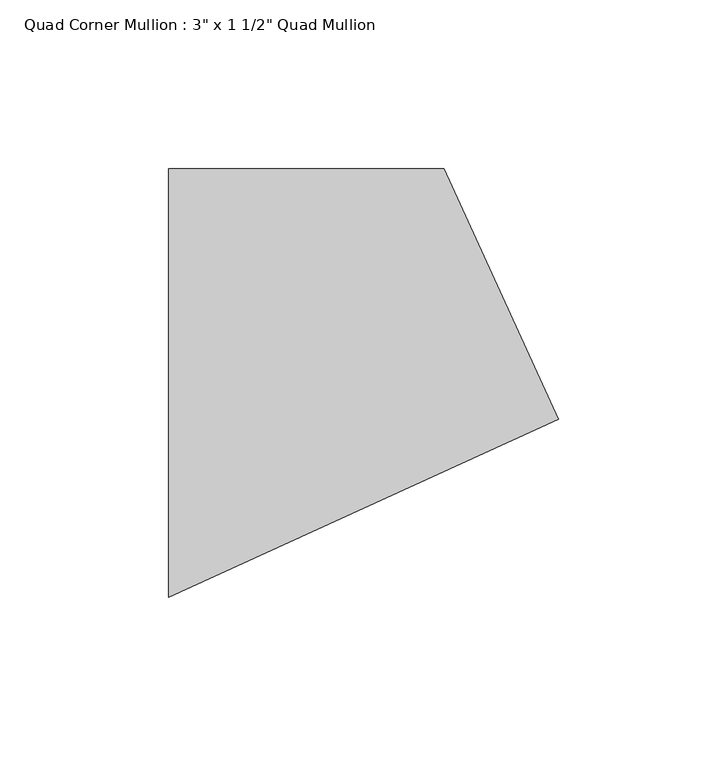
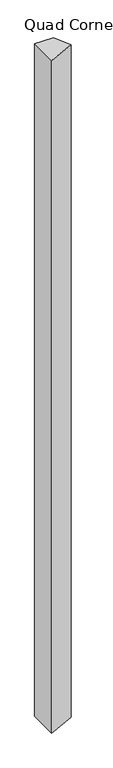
"""IFC4 building model written with IfcOpenShell, lengths in millimetres: member geometry."""

import ifcopenshell
import ifcopenshell.guid

model = None  # the IFC model being written
_history = None  # IfcOwnerHistory: only IFC2X3 demands one
_inside = {}  # id of a spatial element -> (the spatial element, [elements in it])
_under = {}  # id of a project, library or spatial element -> (it, [spatial elements below it])
_declared = {}  # id of a project -> (the project, [libraries it declares])
_typed = {}  # id of a type object -> (the type object, [elements of that type])
_made_of = {}  # id of a material, layer set ... -> (it, [elements and type objects made of it])


def new_model(schema):
    """Start an empty IFC model of exactly this schema.

    Asked for "IFC4X3", IfcOpenShell would pick the latest addendum, in which some entities
    have other attributes; the version numbers below select the first issue.
    IFC2X3 requires an IfcOwnerHistory on every rooted entity: one is made here for all.
    """
    global model, _history
    if schema == "IFC4X3":
        model = ifcopenshell.file(schema_version=(4, 3, 0, 0))
    else:
        model = ifcopenshell.file(schema=schema)
    _inside.clear()
    _under.clear()
    _declared.clear()
    _typed.clear()
    _made_of.clear()
    _history = None
    if model.schema == "IFC2X3":
        org = make("IfcOrganization", Name="unknown")
        user = make(
            "IfcPersonAndOrganization",
            ThePerson=make("IfcPerson", FamilyName="unknown"),
            TheOrganization=org,
        )
        app = make(
            "IfcApplication",
            ApplicationDeveloper=org,
            Version="unknown",
            ApplicationFullName="unknown",
            ApplicationIdentifier="unknown",
        )
        _history = make(
            "IfcOwnerHistory",
            OwningUser=user,
            OwningApplication=app,
            ChangeAction="ADDED",
            CreationDate=0,
        )
    return model


def make(cls, **values):
    """One entity of the class cls with the attributes given. An attribute that is None is left unset."""
    return model.create_entity(
        cls, **{name: value for name, value in values.items() if value is not None}
    )


def rooted(cls, **values):
    """An entity with a GlobalId (a new one), such as an element, a storey or a relation."""
    return make(cls, GlobalId=ifcopenshell.guid.new(), OwnerHistory=_history, **values)


def si_unit(unit_type, name, prefix=None):
    """IfcSIUnit, for example si_unit("LENGTHUNIT", "METRE", prefix="MILLI")."""
    return make("IfcSIUnit", UnitType=unit_type, Prefix=prefix, Name=name)


def assignment(units):
    """IfcUnitAssignment: the units of a project."""
    return None if units is None else make("IfcUnitAssignment", Units=units)


def point(xyz):
    """IfcCartesianPoint."""
    return None if xyz is None else make("IfcCartesianPoint", Coordinates=xyz)


def direction(xyz):
    """IfcDirection."""
    return None if xyz is None else make("IfcDirection", DirectionRatios=xyz)


def frame(location, z_axis=None, x_axis=None):
    """IfcAxis2Placement3D, a coordinate frame: its origin and axes. An axis left out is left unset."""
    return make(
        "IfcAxis2Placement3D",
        Location=point(location),
        Axis=direction(z_axis),
        RefDirection=direction(x_axis),
    )


def origin():
    """The frame at (0, 0, 0) with its axes left unset."""
    return frame((0.0, 0.0, 0.0))


def place(relative_to, where):
    """IfcLocalPlacement: puts the frame where relative to a parent placement (None: the world)."""
    return make(
        "IfcLocalPlacement", PlacementRelTo=relative_to, RelativePlacement=where
    )


def context(
    kind, dimensions, precision=None, world=None, true_north=None, identifier=None
):
    """IfcGeometricRepresentationContext, for example the 3D "Model" context."""
    return make(
        "IfcGeometricRepresentationContext",
        ContextIdentifier=identifier,
        ContextType=kind,
        CoordinateSpaceDimension=dimensions,
        Precision=precision,
        WorldCoordinateSystem=world,
        TrueNorth=true_north,
    )


def project(units=None, contexts=None):
    """IfcProject with its units and contexts."""
    return rooted(
        "IfcProject",
        Name="project",
        RepresentationContexts=contexts,
        UnitsInContext=assignment(units),
    )


def spatial(cls, under=None, at=None, **own):
    """A site, building, storey or space (cls), placed at a placement, below another one or the project."""
    s = rooted(cls, ObjectPlacement=at, **own)
    if under is not None:
        _under.setdefault(under.id(), (under, []))[1].append(s)
    return s


def polyline(points):
    """IfcPolyline through the points."""
    return make("IfcPolyline", Points=[point(p) for p in points])


def outline(outer, holes=None, kind="AREA"):
    """IfcArbitraryClosedProfileDef: a profile drawn as a closed curve; with holes, ...WithVoids."""
    if holes is None:
        return make("IfcArbitraryClosedProfileDef", ProfileType=kind, OuterCurve=outer)
    return make(
        "IfcArbitraryProfileDefWithVoids",
        ProfileType=kind,
        OuterCurve=outer,
        InnerCurves=holes,
    )


def extrude(swept, where, along, depth):
    """IfcExtrudedAreaSolid: the profile swept, set in the frame where, extruded along a direction by depth."""
    return make(
        "IfcExtrudedAreaSolid",
        SweptArea=swept,
        Position=where,
        ExtrudedDirection=direction(along),
        Depth=depth,
    )


def shape(context_of_items, identifier, shape_type, items):
    """IfcShapeRepresentation: the items that make up one representation, for example the "Body"."""
    return make(
        "IfcShapeRepresentation",
        ContextOfItems=context_of_items,
        RepresentationIdentifier=identifier,
        RepresentationType=shape_type,
        Items=items,
    )


def source(mapping_origin, context_of_items, identifier, shape_type, items):
    """IfcRepresentationMap: a shape defined once, which mapped items show again and again."""
    return make(
        "IfcRepresentationMap",
        MappingOrigin=mapping_origin,
        MappedRepresentation=shape(context_of_items, identifier, shape_type, items),
    )


def transform(
    local_origin,
    x_axis=None,
    y_axis=None,
    z_axis=None,
    scale=None,
    scale2=None,
    scale3=None,
    uniform=True,
):
    """IfcCartesianTransformationOperator3D, or its non-uniform kind. x_axis, y_axis, z_axis: its Axis1, 2, 3."""
    if uniform:
        return make(
            "IfcCartesianTransformationOperator3D",
            Axis1=direction(x_axis),
            Axis2=direction(y_axis),
            LocalOrigin=point(local_origin),
            Scale=scale,
            Axis3=direction(z_axis),
        )
    return make(
        "IfcCartesianTransformationOperator3DnonUniform",
        Axis1=direction(x_axis),
        Axis2=direction(y_axis),
        LocalOrigin=point(local_origin),
        Scale=scale,
        Axis3=direction(z_axis),
        Scale2=scale2,
        Scale3=scale3,
    )


def mapped(mapping_source, mapping_target):
    """IfcMappedItem: shows the shape of a source again, moved by a transform."""
    return make(
        "IfcMappedItem", MappingSource=mapping_source, MappingTarget=mapping_target
    )


def made_of(thing, what):
    """Note that an element or type object is made of a material, layer set ...; save() writes the relation."""
    if what is not None:
        _made_of.setdefault(what.id(), (what, []))[1].append(thing)
    return thing


def element(
    cls,
    number,
    at=None,
    inside=None,
    cuts=None,
    type_object=None,
    material=None,
    context=None,
    identifier="Body",
    shape_type=None,
    held_by="IfcProductDefinitionShape",
    body=None,
    shapes=None,
    **own,
):
    """One element of the class cls, such as IfcWall. Its Tag is "e" and its number.

    at: its placement. inside: the storey or other place that contains it. cuts: it is an
    opening in that element (IfcRelVoidsElement). A single representation is given by context,
    identifier, shape_type and body (its items); several are given by shapes. held_by: the class
    of the entity that holds the representations. save() writes the other relations.
    """
    e = rooted(cls, Tag="e%d" % number, ObjectPlacement=at, **own)
    if body is not None:
        shapes = [shape(context, identifier, shape_type, body)]
    if shapes is not None:
        e.Representation = make(held_by, Representations=shapes)
    if inside is not None:
        _inside.setdefault(inside.id(), (inside, []))[1].append(e)
    if cuts is not None:
        rooted(
            "IfcRelVoidsElement", RelatingBuildingElement=cuts, RelatedOpeningElement=e
        )
    if type_object is not None:
        _typed.setdefault(type_object.id(), (type_object, []))[1].append(e)
    return made_of(e, material)


def aggregate(whole, parts):
    """IfcRelAggregates: a whole, such as a stair, and the parts it consists of."""
    return rooted("IfcRelAggregates", RelatingObject=whole, RelatedObjects=parts)


def save(model, path):
    """Write the relations noted so far, then the file.

    IfcRelAggregates (storeys below a building ...), IfcRelContainedInSpatialStructure (elements
    in a storey), IfcRelDefinesByType, IfcRelAssociatesMaterial and IfcRelDeclares: one each for
    every whole, place, type object, material and project.
    """
    for whole, parts in _under.values():
        aggregate(whole, parts)
    for where, things in _inside.values():
        rooted(
            "IfcRelContainedInSpatialStructure",
            RelatedElements=things,
            RelatingStructure=where,
        )
    for kind, things in _typed.values():
        rooted("IfcRelDefinesByType", RelatedObjects=things, RelatingType=kind)
    for what, things in _made_of.values():
        rooted("IfcRelAssociatesMaterial", RelatedObjects=things, RelatingMaterial=what)
    for by, libraries in _declared.values():
        rooted("IfcRelDeclares", RelatingContext=by, RelatedDefinitions=libraries)
    model.write(path)


def member_48a55aaf(model_context):
    return source(origin(), model_context, "Body", "SweptSolid", [
        extrude(outline(polyline([(74.7078921, -10.6493518), (-40.7728811, -63.5), (-40.7728811, 63.5), (40.7728811, 63.5), (74.7078921, -10.6493518)])), frame((0.0, 0.0, -3079.75), z_axis=(0.0, 0.0, 1.0), x_axis=(1.0, 0.0, 0.0)), (0.0, 0.0, 1.0), 3079.75),
    ])


if __name__ == "__main__":
    model = new_model("IFC4")
    model_context = context("Model", 3, world=origin())
    ifc_project = project(units=[si_unit("LENGTHUNIT", "METRE", prefix="MILLI")], contexts=[model_context])
    site = spatial("IfcSite", under=ifc_project)
    building = spatial("IfcBuilding", under=site)
    placement = place(None, origin())
    member_shape = member_48a55aaf(model_context)
    element("IfcMember", 1, ObjectType="Quad Corner Mullion : 3\" x 1 1/2\" Quad Mullion", at=placement, inside=building, context=model_context, shape_type="MappedRepresentation", body=[
        mapped(member_shape, transform((0.0, 0.0, 0.0), x_axis=(1.0, 0.0, 0.0), y_axis=(0.0, 1.0, 0.0), z_axis=(0.0, 0.0, 1.0))),
    ])
    save(model, "model.ifc")
